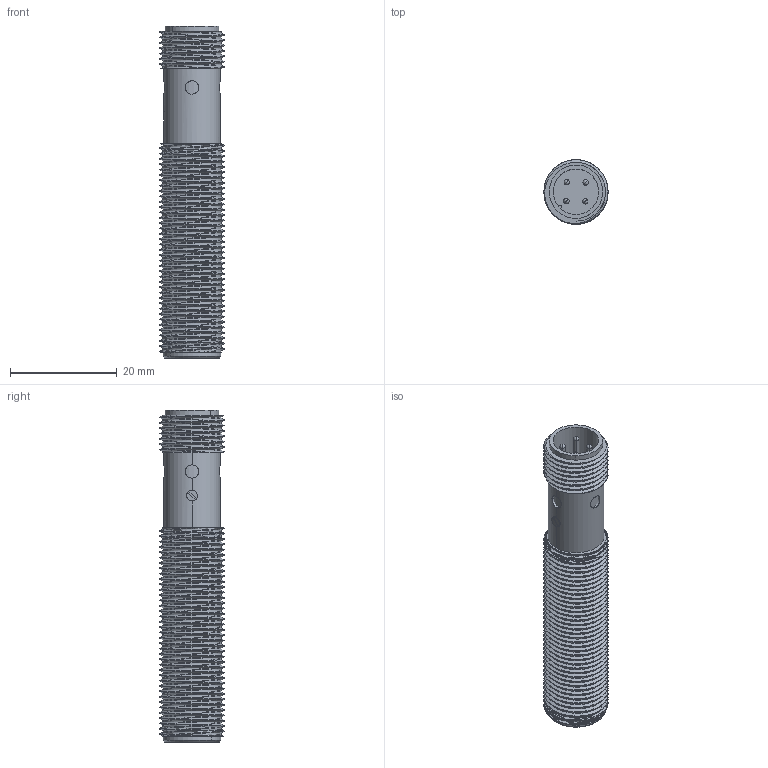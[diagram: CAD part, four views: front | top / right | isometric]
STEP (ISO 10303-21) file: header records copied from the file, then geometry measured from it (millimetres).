
FILE_DESCRIPTION (( 'STEP AP214' ), '1' );
FILE_NAME ('M12X62齐平电容式接头 3D.STEP', '2024-02-23T10:10:24', ( '' ), ( '' ), 'SwSTEP 2.0', 'SolidWorks 2020', '' );
FILE_SCHEMA (( 'AUTOMOTIVE_DESIGN' ));
Length unit declared in the file: millimetre
Products named in the file (5): M12X60諉芛宒; M12PLUG; M12X62齐平电容式接头 3D; 錨璃-M12VR; M12X8ょす覜茼褲杻睛韓
Assembly tree (4 placements, depth 2):
  M12X62齐平电容式接头 3D
    M12X60諉芛宒
    錨璃-M12VR
    M12PLUG
    M12X8ょす覜茼褲杻睛韓
Bounding box: 12 x 12 x 62.07 mm (x, y, z)
Volume: 2478.5 mm3; surface area: 6630.7 mm2
Topology: 4 solids, 4 shells, 274 faces, 792 edges, 520 vertices
Faces by surface type: cylinder 232, plane 20, sphere 16, bspline 4, cone 2
Entity records: 15618 total; most frequent: CARTESIAN_POINT 8993, ORIENTED_EDGE 1516, DIRECTION 1000, EDGE_CURVE 758, VERTEX_POINT 500, AXIS2_PLACEMENT_3D 375, EDGE_LOOP 294, ADVANCED_FACE 274
